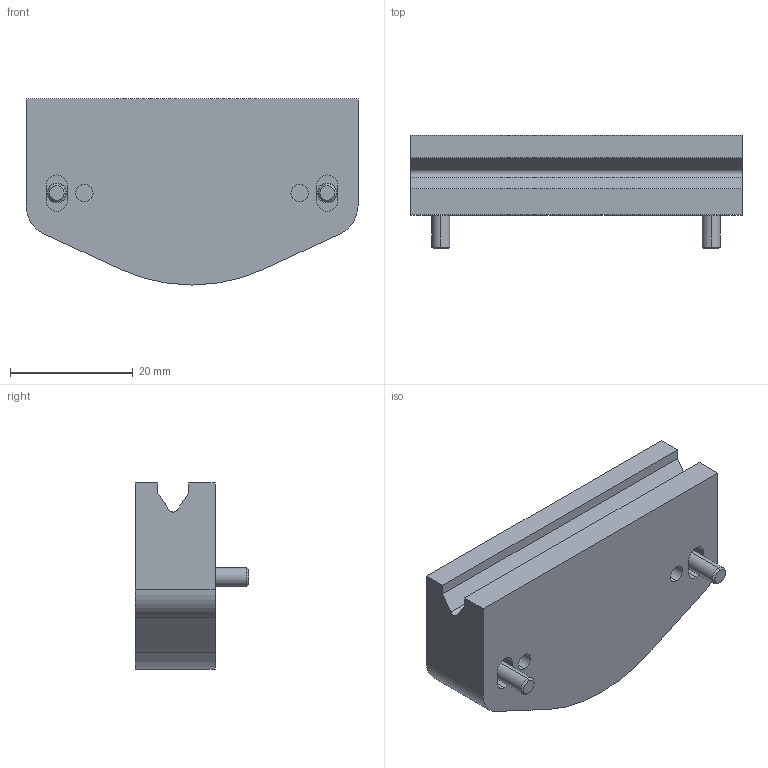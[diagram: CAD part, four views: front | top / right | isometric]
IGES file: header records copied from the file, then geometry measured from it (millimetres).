
Start section: 3D InterOp IGES (v. 2019 1.0.2), Spatial Corp. Copyright (c) 1999-2017.
Global section: file name: CW265.igs; native system: Spatial Corp.; preprocessor: 3D InterOp GENERIC/IGES 3.0; author: Noname; organization: Noname; date: 20220630.144758; units: millimetre
Bounding box: 54 x 18.5 x 30.25 mm (x, y, z)
Surface area: 6123.9 mm2 (no closed solid volume)
Topology: 0 solids, 0 shells, 107 faces, 550 edges, 550 vertices
Faces by surface type: extrusion 58, revolution 49
